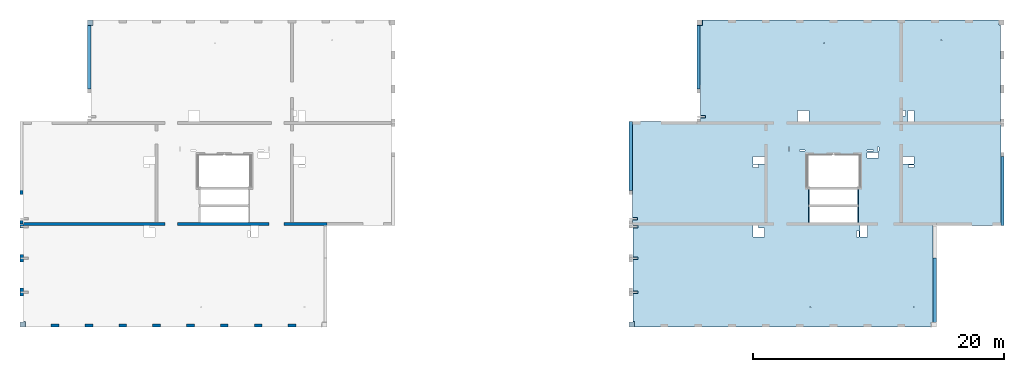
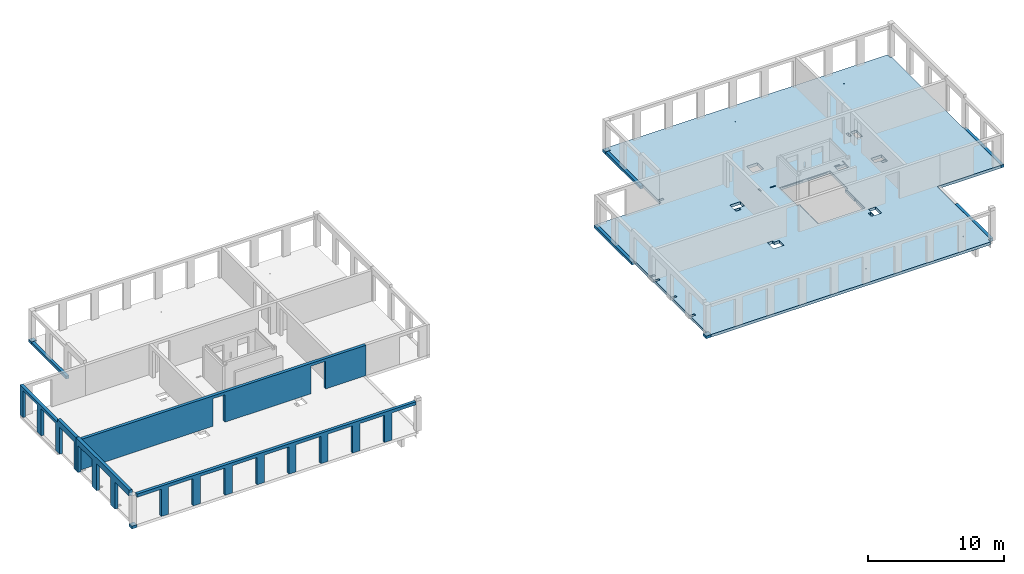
# One storey, part 2 of 12: 10 slabs, 4 walls, 51 openings.
"""IFC2X3 building model written with IfcOpenShell, lengths in millimetres."""

import ifcopenshell
import ifcopenshell.guid

model = None  # the IFC model being written
_history = None  # IfcOwnerHistory: only IFC2X3 demands one
_inside = {}  # id of a spatial element -> (the spatial element, [elements in it])
_under = {}  # id of a project, library or spatial element -> (it, [spatial elements below it])
_declared = {}  # id of a project -> (the project, [libraries it declares])
_typed = {}  # id of a type object -> (the type object, [elements of that type])
_made_of = {}  # id of a material, layer set ... -> (it, [elements and type objects made of it])


def new_model(schema):
    """Start an empty IFC model of exactly this schema.

    Asked for "IFC4X3", IfcOpenShell would pick the latest addendum, in which some entities
    have other attributes; the version numbers below select the first issue.
    IFC2X3 requires an IfcOwnerHistory on every rooted entity: one is made here for all.
    """
    global model, _history
    if schema == "IFC4X3":
        model = ifcopenshell.file(schema_version=(4, 3, 0, 0))
    else:
        model = ifcopenshell.file(schema=schema)
    _inside.clear()
    _under.clear()
    _declared.clear()
    _typed.clear()
    _made_of.clear()
    _history = None
    if model.schema == "IFC2X3":
        org = make("IfcOrganization", Name="unknown")
        user = make(
            "IfcPersonAndOrganization",
            ThePerson=make("IfcPerson", FamilyName="unknown"),
            TheOrganization=org,
        )
        app = make(
            "IfcApplication",
            ApplicationDeveloper=org,
            Version="unknown",
            ApplicationFullName="unknown",
            ApplicationIdentifier="unknown",
        )
        _history = make(
            "IfcOwnerHistory",
            OwningUser=user,
            OwningApplication=app,
            ChangeAction="ADDED",
            CreationDate=0,
        )
    return model


def make(cls, **values):
    """One entity of the class cls with the attributes given. An attribute that is None is left unset."""
    return model.create_entity(
        cls, **{name: value for name, value in values.items() if value is not None}
    )


def entity(cls, *values):
    """Any entity or typed value of the class cls, its attributes in the order of the schema. None: left unset."""
    e = model.create_entity(cls)
    for i, value in enumerate(values):
        if value is not None:
            e[i] = value
    return e


def rooted(cls, **values):
    """An entity with a GlobalId (a new one), such as an element, a storey or a relation."""
    return make(cls, GlobalId=ifcopenshell.guid.new(), OwnerHistory=_history, **values)


def si_unit(unit_type, name, prefix=None):
    """IfcSIUnit, for example si_unit("LENGTHUNIT", "METRE", prefix="MILLI")."""
    return make("IfcSIUnit", UnitType=unit_type, Prefix=prefix, Name=name)


def converted_unit(unit_type, name, factor, base, dimensions=None, offset=None):
    """IfcConversionBasedUnit, such as the inch: factor (a typed value) times the base unit."""
    return make(
        "IfcConversionBasedUnit"
        if offset is None
        else "IfcConversionBasedUnitWithOffset",
        ConversionOffset=offset,
        Dimensions=None
        if dimensions is None
        else entity("IfcDimensionalExponents", *dimensions),
        UnitType=unit_type,
        Name=name,
        ConversionFactor=make(
            "IfcMeasureWithUnit", ValueComponent=factor, UnitComponent=base
        ),
    )


def derived_unit(unit_type, elements):
    """IfcDerivedUnit: a product of units, each with its exponent."""
    return make(
        "IfcDerivedUnit",
        Elements=[
            make("IfcDerivedUnitElement", Unit=unit, Exponent=power)
            for unit, power in elements
        ],
        UnitType=unit_type,
    )


def assignment(units):
    """IfcUnitAssignment: the units of a project."""
    return None if units is None else make("IfcUnitAssignment", Units=units)


def point(xyz):
    """IfcCartesianPoint."""
    return None if xyz is None else make("IfcCartesianPoint", Coordinates=xyz)


def direction(xyz):
    """IfcDirection."""
    return None if xyz is None else make("IfcDirection", DirectionRatios=xyz)


def frame(location, z_axis=None, x_axis=None):
    """IfcAxis2Placement3D, a coordinate frame: its origin and axes. An axis left out is left unset."""
    return make(
        "IfcAxis2Placement3D",
        Location=point(location),
        Axis=direction(z_axis),
        RefDirection=direction(x_axis),
    )


def frame_2d(location, x_axis=None):
    """IfcAxis2Placement2D, a coordinate frame in the plane: its origin and x axis."""
    return make(
        "IfcAxis2Placement2D", Location=point(location), RefDirection=direction(x_axis)
    )


def origin():
    """The frame at (0, 0, 0) with its axes left unset."""
    return frame((0.0, 0.0, 0.0))


def origin_2d_with_axis():
    """The frame at (0, 0) in the plane with the x axis (1, 0) written out."""
    return frame_2d((0.0, 0.0), x_axis=(1.0, 0.0))


def place(relative_to, where):
    """IfcLocalPlacement: puts the frame where relative to a parent placement (None: the world)."""
    return make(
        "IfcLocalPlacement", PlacementRelTo=relative_to, RelativePlacement=where
    )


def context(
    kind, dimensions, precision=None, world=None, true_north=None, identifier=None
):
    """IfcGeometricRepresentationContext, for example the 3D "Model" context."""
    return make(
        "IfcGeometricRepresentationContext",
        ContextIdentifier=identifier,
        ContextType=kind,
        CoordinateSpaceDimension=dimensions,
        Precision=precision,
        WorldCoordinateSystem=world,
        TrueNorth=true_north,
    )


def subcontext(parent, identifier, kind, view, scale=None):
    """IfcGeometricRepresentationSubContext, for example "Body" below "Model"."""
    return make(
        "IfcGeometricRepresentationSubContext",
        ContextIdentifier=identifier,
        ContextType=kind,
        ParentContext=parent,
        TargetScale=scale,
        TargetView=view,
    )


def project(units=None, contexts=None):
    """IfcProject with its units and contexts."""
    return rooted(
        "IfcProject",
        Name="project",
        RepresentationContexts=contexts,
        UnitsInContext=assignment(units),
    )


def spatial(cls, under=None, at=None, **own):
    """A site, building, storey or space (cls), placed at a placement, below another one or the project."""
    s = rooted(cls, ObjectPlacement=at, **own)
    if under is not None:
        _under.setdefault(under.id(), (under, []))[1].append(s)
    return s


def polyline(points):
    """IfcPolyline through the points."""
    return make("IfcPolyline", Points=[point(p) for p in points])


def profile(cls, at=None, kind="AREA", **sizes):
    """A parametric profile (cls). Its sizes go by their IFC names, for example OverallWidth=200.0."""
    return make(cls, ProfileType=kind, Position=at, **sizes)


def rectangle(**sizes):
    """IfcRectangleProfileDef."""
    return profile("IfcRectangleProfileDef", **sizes)


def circle(**sizes):
    """IfcCircleProfileDef."""
    return profile("IfcCircleProfileDef", **sizes)


def outline(outer, holes=None, kind="AREA"):
    """IfcArbitraryClosedProfileDef: a profile drawn as a closed curve; with holes, ...WithVoids."""
    if holes is None:
        return make("IfcArbitraryClosedProfileDef", ProfileType=kind, OuterCurve=outer)
    return make(
        "IfcArbitraryProfileDefWithVoids",
        ProfileType=kind,
        OuterCurve=outer,
        InnerCurves=holes,
    )


def extrude(swept, where, along, depth):
    """IfcExtrudedAreaSolid: the profile swept, set in the frame where, extruded along a direction by depth."""
    return make(
        "IfcExtrudedAreaSolid",
        SweptArea=swept,
        Position=where,
        ExtrudedDirection=direction(along),
        Depth=depth,
    )


def shape(context_of_items, identifier, shape_type, items):
    """IfcShapeRepresentation: the items that make up one representation, for example the "Body"."""
    return make(
        "IfcShapeRepresentation",
        ContextOfItems=context_of_items,
        RepresentationIdentifier=identifier,
        RepresentationType=shape_type,
        Items=items,
    )


def material(Name=None, Category=None):
    """IfcMaterial."""
    return make("IfcMaterial", Name=Name, Category=Category)


def layer(
    of_material, thickness, ventilated=None, Name=None, Category=None, Priority=None
):
    """IfcMaterialLayer: one layer of a wall or slab, of a material (None: an air gap)."""
    return make(
        "IfcMaterialLayer",
        Material=of_material,
        LayerThickness=thickness,
        IsVentilated=ventilated,
        Name=Name,
        Category=Category,
        Priority=Priority,
    )


def layer_set(layers, Name=None):
    """IfcMaterialLayerSet."""
    return make("IfcMaterialLayerSet", MaterialLayers=layers, LayerSetName=Name)


def layer_usage(for_layer_set, set_direction, sense, offset, extent=None):
    """IfcMaterialLayerSetUsage: how a layer set lies in its element."""
    return make(
        "IfcMaterialLayerSetUsage",
        ForLayerSet=for_layer_set,
        LayerSetDirection=set_direction,
        DirectionSense=sense,
        OffsetFromReferenceLine=offset,
        ReferenceExtent=extent,
    )


def made_of(thing, what):
    """Note that an element or type object is made of a material, layer set ...; save() writes the relation."""
    if what is not None:
        _made_of.setdefault(what.id(), (what, []))[1].append(thing)
    return thing


def type_object(cls, material=None, **own):
    """A type object (cls), such as IfcWallType, which elements share."""
    return made_of(rooted(cls, **own), material)


def element(
    cls,
    number,
    at=None,
    inside=None,
    cuts=None,
    type_object=None,
    material=None,
    context=None,
    identifier="Body",
    shape_type=None,
    held_by="IfcProductDefinitionShape",
    body=None,
    shapes=None,
    **own,
):
    """One element of the class cls, such as IfcWall. Its Tag is "e" and its number.

    at: its placement. inside: the storey or other place that contains it. cuts: it is an
    opening in that element (IfcRelVoidsElement). A single representation is given by context,
    identifier, shape_type and body (its items); several are given by shapes. held_by: the class
    of the entity that holds the representations. save() writes the other relations.
    """
    e = rooted(cls, Tag="e%d" % number, ObjectPlacement=at, **own)
    if body is not None:
        shapes = [shape(context, identifier, shape_type, body)]
    if shapes is not None:
        e.Representation = make(held_by, Representations=shapes)
    if inside is not None:
        _inside.setdefault(inside.id(), (inside, []))[1].append(e)
    if cuts is not None:
        rooted(
            "IfcRelVoidsElement", RelatingBuildingElement=cuts, RelatedOpeningElement=e
        )
    if type_object is not None:
        _typed.setdefault(type_object.id(), (type_object, []))[1].append(e)
    return made_of(e, material)


def aggregate(whole, parts):
    """IfcRelAggregates: a whole, such as a stair, and the parts it consists of."""
    return rooted("IfcRelAggregates", RelatingObject=whole, RelatedObjects=parts)


def save(model, path):
    """Write the relations noted so far, then the file.

    IfcRelAggregates (storeys below a building ...), IfcRelContainedInSpatialStructure (elements
    in a storey), IfcRelDefinesByType, IfcRelAssociatesMaterial and IfcRelDeclares: one each for
    every whole, place, type object, material and project.
    """
    for whole, parts in _under.values():
        aggregate(whole, parts)
    for where, things in _inside.values():
        rooted(
            "IfcRelContainedInSpatialStructure",
            RelatedElements=things,
            RelatingStructure=where,
        )
    for kind, things in _typed.values():
        rooted("IfcRelDefinesByType", RelatedObjects=things, RelatingType=kind)
    for what, things in _made_of.values():
        rooted("IfcRelAssociatesMaterial", RelatedObjects=things, RelatingMaterial=what)
    for by, libraries in _declared.values():
        rooted("IfcRelDeclares", RelatingContext=by, RelatedDefinitions=libraries)
    model.write(path)


model = new_model("IFC2X3")

# Units and contexts
model_context = context("Model", 3, precision=0.01, world=origin(), true_north=direction((6.12303176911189e-17, 1.0)))
body_context = subcontext(model_context, "Body", "Model", "MODEL_VIEW")
ifc_project = project(units=[si_unit("LENGTHUNIT", "METRE", prefix="MILLI"), si_unit("AREAUNIT", "SQUARE_METRE"), si_unit("VOLUMEUNIT", "CUBIC_METRE"), converted_unit("PLANEANGLEUNIT", "DEGREE", entity("IfcRatioMeasure", 0.0174532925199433), si_unit("PLANEANGLEUNIT", "RADIAN"), dimensions=[0, 0, 0, 0, 0, 0, 0]), si_unit("MASSUNIT", "GRAM", prefix="KILO"), derived_unit("MASSDENSITYUNIT", [(si_unit("MASSUNIT", "GRAM", prefix="KILO"), 1), (si_unit("LENGTHUNIT", "METRE"), -3)]), si_unit("TIMEUNIT", "SECOND"), si_unit("FREQUENCYUNIT", "HERTZ"), si_unit("THERMODYNAMICTEMPERATUREUNIT", "DEGREE_CELSIUS"), derived_unit("THERMALTRANSMITTANCEUNIT", [(si_unit("MASSUNIT", "GRAM", prefix="KILO"), 1), (si_unit("THERMODYNAMICTEMPERATUREUNIT", "KELVIN"), -1), (si_unit("TIMEUNIT", "SECOND"), -3)]), derived_unit("VOLUMETRICFLOWRATEUNIT", [(si_unit("LENGTHUNIT", "METRE"), 3), (si_unit("TIMEUNIT", "SECOND"), -1)]), si_unit("ELECTRICCURRENTUNIT", "AMPERE"), si_unit("ELECTRICVOLTAGEUNIT", "VOLT"), si_unit("POWERUNIT", "WATT"), si_unit("FORCEUNIT", "NEWTON", prefix="KILO"), si_unit("ILLUMINANCEUNIT", "LUX"), si_unit("LUMINOUSFLUXUNIT", "LUMEN"), si_unit("LUMINOUSINTENSITYUNIT", "CANDELA"), derived_unit("USERDEFINED", [(si_unit("MASSUNIT", "GRAM", prefix="KILO"), -1), (si_unit("LENGTHUNIT", "METRE"), -2), (si_unit("TIMEUNIT", "SECOND"), 3), (si_unit("LUMINOUSFLUXUNIT", "LUMEN"), 1)]), derived_unit("LINEARVELOCITYUNIT", [(si_unit("LENGTHUNIT", "METRE"), 1), (si_unit("TIMEUNIT", "SECOND"), -1)]), si_unit("PRESSUREUNIT", "PASCAL"), derived_unit("USERDEFINED", [(si_unit("LENGTHUNIT", "METRE"), -2), (si_unit("MASSUNIT", "GRAM", prefix="KILO"), 1), (si_unit("TIMEUNIT", "SECOND"), -2)])], contexts=[model_context])

# Site, building, storey
site_placement = place(None, origin())
site = spatial("IfcSite", under=ifc_project, at=site_placement, Name="Default", CompositionType="ELEMENT")
building_placement = place(site_placement, origin())
building = spatial("IfcBuilding", under=site, at=building_placement, Name="niet gebruiken", CompositionType="ELEMENT")
storey_placement = place(building_placement, frame((0.0, 0.0, 24480.0)))
storey = spatial("IfcBuildingStorey", under=building, at=storey_placement, Name="08 achtste verdieping", CompositionType="ELEMENT", Elevation=24480.0)

# Slab, openings
ifc_material_1 = material(Name="NLRS_f2_beton ihwg")
ifc_layer_1 = layer(ifc_material_1, 250.0)
ifc_layer_set_1 = layer_set([ifc_layer_1], Name="Floor:NLRS_23.21_FL_beton ihwg d=250_gen")
ifc_layer_usage_1 = layer_usage(ifc_layer_set_1, "AXIS3", "POSITIVE", 0.0)
slab_1_placement = place(storey_placement, frame((75500.0, 28756.0, -340.0)))
slab_1 = element("IfcSlab", 1, at=slab_1_placement, inside=storey, material=ifc_layer_usage_1, Name="Floor:NLRS_23.21_FL_beton ihwg d=250_gen", ObjectType="Floor:NLRS_23.21_FL_beton ihwg d=250_gen", PredefinedType="FLOOR", context=body_context, shape_type="SweptSolid", body=[
    extrude(outline(polyline([(8994.99996701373, 12250.0), (-14665.0, 12250.0), (-14665.0, 11840.0), (-14805.0, 11840.0), (-14805.0, 4060.0), (-14825.0, 4060.0), (-14825.0, -4150.0), (-9425.0, -4150.0), (-9425.0, -11890.0), (-9265.00003298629, -11890.0), (-9265.00003298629, -12250.0), (14395.0, -12250.0), (14395.0, -11820.0), (14535.0, -11820.0), (14535.0, -4060.0), (14555.0, -4060.0), (14555.0, -1350.0), (14825.0, -1350.0), (14825.0, 4150.0), (9155.0, 4150.0), (9155.0, 7060.0), (9175.0, 7060.0), (9175.0, 11820.0), (8994.99996701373, 11820.0), (8994.99996701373, 12250.0)])), frame((14825.0, 12250.0, 250.0), z_axis=(0.0, 0.0, -1.0), x_axis=(-1.0, 0.0, 0.0)), (0.0, 0.0, 1.0), 249.999999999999),
])
opening_1_placement = place(storey_placement, frame((75500.0, 28756.0, -340.0)))
element("IfcOpeningElement", 2, at=opening_1_placement, cuts=slab_1, ObjectType="Opening", context=body_context, shape_type="SweptSolid", body=[
    extrude(circle(Radius=37.5, at=frame_2d((-7875.0, -10650.0), x_axis=(1.0, 0.0))), frame((14825.0, 12250.0, 250.0), z_axis=(0.0, 0.0, -1.0), x_axis=(-1.0, 0.0, 0.0)), (0.0, 0.0, 1.0), 249.999999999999),
])
opening_2_placement = place(storey_placement, frame((75500.0, 28756.0, -340.0)))
element("IfcOpeningElement", 3, at=opening_2_placement, cuts=slab_1, ObjectType="Opening", context=body_context, shape_type="SweptSolid", body=[
    extrude(circle(Radius=37.5, at=frame_2d((-10075.0, 10650.0), x_axis=(1.0, 0.0))), frame((14825.0, 12250.0, 250.0), z_axis=(0.0, 0.0, -1.0), x_axis=(-1.0, 0.0, 0.0)), (0.0, 0.0, 1.0), 249.999999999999),
])
opening_3_placement = place(storey_placement, frame((75500.0, 28756.0, -340.0)))
element("IfcOpeningElement", 4, at=opening_3_placement, cuts=slab_1, ObjectType="Opening", context=body_context, shape_type="SweptSolid", body=[
    extrude(circle(Radius=37.5, at=frame_2d((-725.0, 10400.0), x_axis=(1.0, 0.0))), frame((14825.0, 12250.0, 250.0), z_axis=(0.0, 0.0, -1.0), x_axis=(-1.0, 0.0, 0.0)), (0.0, 0.0, 1.0), 249.999999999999),
])
opening_4_placement = place(storey_placement, frame((75500.0, 28756.0, -340.0)))
element("IfcOpeningElement", 5, at=opening_4_placement, cuts=slab_1, ObjectType="Opening", context=body_context, shape_type="SweptSolid", body=[
    extrude(circle(Radius=37.5, at=frame_2d((375.0, -10650.0), x_axis=(1.0, 0.0))), frame((14825.0, 12250.0, 250.0), z_axis=(0.0, 0.0, -1.0), x_axis=(-1.0, 0.0, 0.0)), (0.0, 0.0, 1.0), 249.999999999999),
])
opening_5_placement = place(slab_1_placement, origin())
element("IfcOpeningElement", 6, at=opening_5_placement, cuts=slab_1, ObjectType="Opening", context=body_context, shape_type="SweptSolid", body=[
    extrude(rectangle(XDim=109.999999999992, YDim=1220.0, at=origin_2d_with_axis()), frame((14344.9999671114, 10380.0, 210.0)), (0.0, 0.0, 1.0), 39.9999999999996),
])
opening_6_placement = place(slab_1_placement, origin())
element("IfcOpeningElement", 7, at=opening_6_placement, cuts=slab_1, ObjectType="Opening", context=body_context, shape_type="SweptSolid", body=[
    extrude(rectangle(XDim=109.999999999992, YDim=1220.0, at=origin_2d_with_axis()), frame((18255.0, 10380.0, 210.0)), (0.0, 0.0, 1.0), 39.9999999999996),
])
opening_7_placement = place(slab_1_placement, origin())
element("IfcOpeningElement", 8, at=opening_7_placement, cuts=slab_1, ObjectType="Opening", context=body_context, shape_type="SweptSolid", body=[
    extrude(rectangle(XDim=109.999999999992, YDim=1220.0, at=origin_2d_with_axis()), frame((18255.0, 8960.0, 210.0)), (0.0, 0.0, 1.0), 39.9999999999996),
])
opening_8_placement = place(slab_1_placement, origin())
element("IfcOpeningElement", 9, at=opening_8_placement, cuts=slab_1, ObjectType="Opening", context=body_context, shape_type="SweptSolid", body=[
    extrude(rectangle(XDim=109.999999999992, YDim=1220.0, at=origin_2d_with_axis()), frame((14344.9997832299, 8960.0, 210.0)), (0.0, 0.0, 1.0), 39.9999999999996),
])
opening_9_placement = place(slab_1_placement, origin())
element("IfcOpeningElement", 10, at=opening_9_placement, cuts=slab_1, ObjectType="Opening", context=body_context, shape_type="SweptSolid", body=[
    extrude(rectangle(XDim=200.000000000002, YDim=400.000000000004, at=origin_2d_with_axis()), frame((490.0, 2800.0, 220.0), z_axis=(0.0, 0.0, 1.0), x_axis=(0.0, -1.0, 0.0)), (0.0, 0.0, 1.0), 30.0000000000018),
])
opening_10_placement = place(slab_1_placement, origin())
element("IfcOpeningElement", 11, at=opening_10_placement, cuts=slab_1, ObjectType="Opening", context=body_context, shape_type="SweptSolid", body=[
    extrude(rectangle(XDim=200.000000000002, YDim=400.000000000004, at=origin_2d_with_axis()), frame((490.0, 5500.0, 220.0), z_axis=(0.0, 0.0, 1.0), x_axis=(0.0, -1.0, 0.0)), (0.0, 0.0, 1.0), 30.0000000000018),
])
opening_11_placement = place(slab_1_placement, origin())
element("IfcOpeningElement", 12, at=opening_11_placement, cuts=slab_1, ObjectType="Opening", context=body_context, shape_type="SweptSolid", body=[
    extrude(rectangle(XDim=200.000000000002, YDim=400.000000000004, at=origin_2d_with_axis()), frame((490.0, 8000.0, 220.0), z_axis=(0.0, 0.0, 1.0), x_axis=(0.0, -1.0, 0.0)), (0.0, 0.0, 1.0), 30.0000000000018),
])
opening_12_placement = place(slab_1_placement, origin())
element("IfcOpeningElement", 13, at=opening_12_placement, cuts=slab_1, ObjectType="Opening", context=body_context, shape_type="SweptSolid", body=[
    extrude(rectangle(XDim=400.000000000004, YDim=200.000000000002, at=origin_2d_with_axis()), frame((470.0, 8630.0, 220.0)), (0.0, 0.0, 1.0), 30.0000000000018),
])
opening_13_placement = place(slab_1_placement, origin())
element("IfcOpeningElement", 14, at=opening_13_placement, cuts=slab_1, ObjectType="Opening", context=body_context, shape_type="SweptSolid", body=[
    extrude(rectangle(XDim=399.999999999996, YDim=199.999999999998, at=origin_2d_with_axis()), frame((5870.0, 16765.0, 220.0)), (0.0, 0.0, 1.0), 30.0000000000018),
])
opening_14_placement = place(slab_1_placement, origin())
element("IfcOpeningElement", 15, at=opening_14_placement, cuts=slab_1, ObjectType="Opening", context=body_context, shape_type="SweptSolid", body=[
    extrude(rectangle(XDim=900.000000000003, YDim=700.000000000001, at=origin_2d_with_axis()), frame((10325.0, 7550.0, 0.0), z_axis=(0.0, 0.0, 1.0), x_axis=(-1.0, 0.0, 0.0)), (0.0, 0.0, 1.0), 249.999999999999),
])
opening_15_placement = place(slab_1_placement, origin())
element("IfcOpeningElement", 16, at=opening_15_placement, cuts=slab_1, ObjectType="Opening", context=body_context, shape_type="SweptSolid", body=[
    extrude(rectangle(XDim=200.000000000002, YDim=450.000000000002, at=origin_2d_with_axis()), frame((10100.0, 8000.0, 0.0), z_axis=(0.0, 0.0, 1.0), x_axis=(0.0, -1.0, 0.0)), (0.0, 0.0, 1.0), 249.999999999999),
])
opening_16_placement = place(slab_1_placement, origin())
element("IfcOpeningElement", 17, at=opening_16_placement, cuts=slab_1, ObjectType="Opening", context=body_context, shape_type="SweptSolid", body=[
    extrude(rectangle(XDim=450.000000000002, YDim=900.000000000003, at=origin_2d_with_axis()), frame((19430.0, 13720.0, 0.0), z_axis=(0.0, 0.0, 1.0), x_axis=(0.0, -1.0, 0.0)), (0.0, 0.0, 1.0), 249.999999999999),
])
opening_17_placement = place(slab_1_placement, origin())
element("IfcOpeningElement", 18, at=opening_17_placement, cuts=slab_1, ObjectType="Opening", context=body_context, shape_type="SweptSolid", body=[
    extrude(rectangle(XDim=900.000000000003, YDim=900.000000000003, at=origin_2d_with_axis()), frame((13885.0, 16850.0, 0.0), z_axis=(0.0, 0.0, 1.0), x_axis=(-1.0, 0.0, 0.0)), (0.0, 0.0, 1.0), 249.999999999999),
])
opening_18_placement = place(slab_1_placement, origin())
element("IfcOpeningElement", 19, at=opening_18_placement, cuts=slab_1, ObjectType="Opening", context=body_context, shape_type="SweptSolid", body=[
    extrude(rectangle(XDim=900.000000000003, YDim=600.000000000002, at=origin_2d_with_axis()), frame((10325.0, 13330.0, 0.0), z_axis=(0.0, 0.0, 1.0), x_axis=(-1.0, 0.0, 0.0)), (0.0, 0.0, 1.0), 249.999999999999),
])
opening_19_placement = place(slab_1_placement, origin())
element("IfcOpeningElement", 20, at=opening_19_placement, cuts=slab_1, ObjectType="Opening", context=body_context, shape_type="SweptSolid", body=[
    extrude(rectangle(XDim=900.000000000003, YDim=500.000000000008, at=origin_2d_with_axis()), frame((22475.0, 16850.0, 0.0), z_axis=(0.0, 0.0, 1.0), x_axis=(0.0, 1.0, 0.0)), (0.0, 0.0, 1.0), 249.999999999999),
])
opening_20_placement = place(slab_1_placement, origin())
element("IfcOpeningElement", 21, at=opening_20_placement, cuts=slab_1, ObjectType="Opening", context=body_context, shape_type="SweptSolid", body=[
    extrude(rectangle(XDim=899.999999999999, YDim=600.000000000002, at=origin_2d_with_axis()), frame((18729.9818996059, 7650.0, 0.0), z_axis=(0.0, 0.0, 1.0), x_axis=(0.0, 1.0, 0.0)), (0.0, 0.0, 1.0), 249.999999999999),
])
opening_21_placement = place(slab_1_placement, origin())
element("IfcOpeningElement", 22, at=opening_21_placement, cuts=slab_1, ObjectType="Opening", context=body_context, shape_type="SweptSolid", body=[
    extrude(rectangle(XDim=1760.0, YDim=23.0000000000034, at=origin_2d_with_axis()), frame((17354.9998491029, 13751.5, 180.0)), (0.0, 0.0, 1.0), 39.9999999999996),
])
opening_22_placement = place(slab_1_placement, origin())
element("IfcOpeningElement", 23, at=opening_22_placement, cuts=slab_1, ObjectType="Opening", context=body_context, shape_type="SweptSolid", body=[
    extrude(rectangle(XDim=1760.00000000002, YDim=23.0000000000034, at=origin_2d_with_axis()), frame((15244.9998491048, 13751.5, 180.0)), (0.0, 0.0, 1.0), 39.9999999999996),
])
opening_23_placement = place(slab_1_placement, origin())
element("IfcOpeningElement", 24, at=opening_23_placement, cuts=slab_1, ObjectType="Opening", context=body_context, shape_type="SweptSolid", body=[
    extrude(rectangle(XDim=100.000000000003, YDim=489.999999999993, at=origin_2d_with_axis()), frame((19225.0, 14090.0, 0.0), z_axis=(0.0, 0.0, 1.0), x_axis=(0.0, -1.0, 0.0)), (0.0, 0.0, 1.0), 249.999999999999),
])
opening_24_placement = place(slab_1_placement, origin())
element("IfcOpeningElement", 25, at=opening_24_placement, cuts=slab_1, ObjectType="Opening", context=body_context, shape_type="SweptSolid", body=[
    extrude(rectangle(XDim=99.9999999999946, YDim=340.000000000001, at=origin_2d_with_axis()), frame((19865.0, 14210.0, 0.0), z_axis=(0.0, 0.0, 1.0), x_axis=(-1.0, 0.0, 0.0)), (0.0, 0.0, 1.0), 249.999999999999),
])
opening_25_placement = place(slab_1_placement, origin())
element("IfcOpeningElement", 26, at=opening_25_placement, cuts=slab_1, ObjectType="Opening", context=body_context, shape_type="SweptSolid", body=[
    extrude(rectangle(XDim=100.000000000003, YDim=440.000000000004, at=origin_2d_with_axis()), frame((13805.0, 14090.0, 0.0), z_axis=(0.0, 0.0, 1.0), x_axis=(0.0, -1.0, 0.0)), (0.0, 0.0, 1.0), 249.999999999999),
])
opening_26_placement = place(slab_1_placement, origin())
element("IfcOpeningElement", 27, at=opening_26_placement, cuts=slab_1, ObjectType="Opening", context=body_context, shape_type="SweptSolid", body=[
    extrude(rectangle(XDim=99.9999999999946, YDim=340.000000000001, at=origin_2d_with_axis()), frame((12755.0, 14210.0, 0.0), z_axis=(0.0, 0.0, 1.0), x_axis=(-1.0, 0.0, 0.0)), (0.0, 0.0, 1.0), 249.999999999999),
])
opening_27_placement = place(slab_1_placement, origin())
element("IfcOpeningElement", 28, at=opening_27_placement, cuts=slab_1, ObjectType="Opening", context=body_context, shape_type="SweptSolid", body=[
    extrude(rectangle(XDim=220.000000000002, YDim=450.000000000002, at=origin_2d_with_axis()), frame((21935.0, 17075.0, 0.0), z_axis=(0.0, 0.0, 1.0), x_axis=(-1.0, 0.0, 0.0)), (0.0, 0.0, 1.0), 249.999999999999),
])
opening_28_placement = place(slab_1_placement, origin())
element("IfcOpeningElement", 29, at=opening_28_placement, cuts=slab_1, ObjectType="Opening", context=body_context, shape_type="SweptSolid", body=[
    extrude(rectangle(XDim=230.0, YDim=450.000000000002, at=origin_2d_with_axis()), frame((10100.0000865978, 12845.0002270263, 0.0), z_axis=(0.0, 0.0, 1.0), x_axis=(0.0, -1.0, 0.0)), (0.0, 0.0, 1.0), 249.999999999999),
])
opening_29_placement = place(slab_1_placement, origin())
element("IfcOpeningElement", 30, at=opening_29_placement, cuts=slab_1, ObjectType="Opening", context=body_context, shape_type="SweptSolid", body=[
    extrude(rectangle(XDim=220.000000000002, YDim=450.000000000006, at=origin_2d_with_axis()), frame((18240.0, 7425.0, 0.0)), (0.0, 0.0, 1.0), 249.999999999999),
])
opening_30_placement = place(slab_1_placement, origin())
element("IfcOpeningElement", 31, at=opening_30_placement, cuts=slab_1, ObjectType="Opening", context=body_context, shape_type="SweptSolid", body=[
    extrude(rectangle(XDim=900.000000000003, YDim=600.000000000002, at=origin_2d_with_axis()), frame((22275.0, 13330.0, 0.0), z_axis=(0.0, 0.0, 1.0), x_axis=(-1.0, 0.0, 0.0)), (0.0, 0.0, 1.0), 249.999999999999),
])
opening_31_placement = place(slab_1_placement, origin())
element("IfcOpeningElement", 32, at=opening_31_placement, cuts=slab_1, ObjectType="Opening", context=body_context, shape_type="SweptSolid", body=[
    extrude(rectangle(XDim=220.000000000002, YDim=450.000000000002, at=origin_2d_with_axis()), frame((22500.0, 12840.0, 0.0), z_axis=(0.0, 0.0, 1.0), x_axis=(0.0, -1.0, 0.0)), (0.0, 0.0, 1.0), 249.999999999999),
])
opening_32_placement = place(slab_1_placement, frame((16300.0, 10378.75, 250.0)))
element("IfcOpeningElement", 33, at=opening_32_placement, cuts=slab_1, Name="Floor:NLRS_23.21_FL_beton ihwg d=250_gen:2", ObjectType="Opening", context=body_context, shape_type="SweptSolid", body=[
    extrude(outline(polyline([(-3361.25000000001, -2135.00001644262), (-751.250000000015, -2135.00001644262), (-751.250000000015, -1899.99998355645), (608.750000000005, -1899.99998355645), (608.750000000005, -2000.00001644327), (808.750000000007, -2000.00001644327), (808.750000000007, -1899.99998355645), (2028.75, -1899.99998355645), (2028.75, 1900.00001644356), (808.749999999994, 1900.00001644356), (808.749999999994, 1999.99998355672), (608.749999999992, 1999.99998355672), (608.749999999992, 1900.00001644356), (-751.250000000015, 1900.00001644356), (-751.250000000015, 2134.99998355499), (-3361.25000000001, 2134.99998355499), (-3361.25000000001, -2135.00001644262)])), frame((0.0, 0.0, 0.0), z_axis=(0.0, 0.0, -1.0), x_axis=(0.0, -1.0, 0.0)), (0.0, 0.0, 1.0), 249.999999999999),
])

# Slabs
ifc_layer_usage_2 = layer_usage(ifc_layer_set_1, "AXIS3", "POSITIVE", 0.0)
slab_2_placement = place(storey_placement, origin())
element("IfcSlab", 34, at=slab_2_placement, inside=storey, material=ifc_layer_usage_2, Name="Floor:NLRS_23.21_FL_beton ihwg d=250_gen", ObjectType="Floor:NLRS_23.21_FL_beton ihwg d=250_gen", PredefinedType="FLOOR", context=body_context, shape_type="SweptSolid", body=[
    extrude(rectangle(XDim=5140.00000000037, YDim=250.000065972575, at=origin_2d_with_axis()), frame((99875.0, 31686.0, -90.0), z_axis=(0.0, 0.0, -1.0), x_axis=(0.0, 1.0, 0.0)), (0.0, 0.0, 1.0), 249.999999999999),
])
ifc_layer_usage_3 = layer_usage(ifc_layer_set_1, "AXIS3", "POSITIVE", 0.0)
slab_3_placement = place(storey_placement, origin())
element("IfcSlab", 35, at=slab_3_placement, inside=storey, material=ifc_layer_usage_3, Name="Floor:NLRS_23.21_FL_beton ihwg d=250_gen", ObjectType="Floor:NLRS_23.21_FL_beton ihwg d=250_gen", PredefinedType="FLOOR", context=body_context, shape_type="SweptSolid", body=[
    extrude(rectangle(XDim=5089.99999999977, YDim=249.999999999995, at=frame_2d((-4.32009983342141e-12, -8.66151594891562e-12), x_axis=(1.0, 0.0))), frame((81025.0, 50301.0, -90.0), z_axis=(0.0, 0.0, -1.0), x_axis=(0.0, 1.0, 0.0)), (0.0, 0.0, 1.0), 249.999999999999),
])
ifc_layer_usage_4 = layer_usage(ifc_layer_set_1, "AXIS3", "POSITIVE", 0.0)
slab_4_placement = place(storey_placement, origin())
element("IfcSlab", 36, at=slab_4_placement, inside=storey, material=ifc_layer_usage_4, Name="Floor:NLRS_23.21_FL_beton ihwg d=250_gen", ObjectType="Floor:NLRS_23.21_FL_beton ihwg d=250_gen", PredefinedType="FLOOR", context=body_context, shape_type="SweptSolid", body=[
    extrude(rectangle(XDim=5499.99999999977, YDim=250.000000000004, at=frame_2d((0.0, 4.33431068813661e-12), x_axis=(1.0, 0.0))), frame((75625.0, 42406.0, -90.0), z_axis=(0.0, 0.0, -1.0), x_axis=(0.0, 1.0, 0.0)), (0.0, 0.0, 1.0), 249.999999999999),
])
ifc_layer_usage_5 = layer_usage(ifc_layer_set_1, "AXIS3", "POSITIVE", 0.0)
slab_5_placement = place(storey_placement, origin())
element("IfcSlab", 37, at=slab_5_placement, inside=storey, material=ifc_layer_usage_5, Name="Floor:NLRS_23.21_FL_beton ihwg d=250_gen", ObjectType="Floor:NLRS_23.21_FL_beton ihwg d=250_gen", PredefinedType="FLOOR", context=body_context, shape_type="SweptSolid", body=[
    extrude(rectangle(XDim=5089.99999999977, YDim=249.999999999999, at=frame_2d((-4.32009983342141e-12, -2.16715534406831e-12), x_axis=(1.0, 0.0))), frame((32425.0, 50301.0, -90.0), z_axis=(0.0, 0.0, -1.0), x_axis=(0.0, 1.0, 0.0)), (0.0, 0.0, 1.0), 249.999999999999),
])
ifc_layer_usage_6 = layer_usage(ifc_layer_set_1, "AXIS3", "POSITIVE", 0.0)
slab_6_placement = place(storey_placement, origin())
element("IfcSlab", 38, at=slab_6_placement, inside=storey, material=ifc_layer_usage_6, Name="Floor:NLRS_23.21_FL_beton ihwg d=250_gen", ObjectType="Floor:NLRS_23.21_FL_beton ihwg d=250_gen", PredefinedType="FLOOR", context=body_context, shape_type="SweptSolid", body=[
    extrude(rectangle(XDim=5500.00000000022, YDim=249.999999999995, at=frame_2d((0.0, -8.66151594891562e-12), x_axis=(1.0, 0.0))), frame((105275.0, 39606.0, -90.0), z_axis=(0.0, 0.0, -1.0), x_axis=(0.0, 1.0, 0.0)), (0.0, 0.0, 1.0), 249.999999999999),
])
ifc_layer_usage_7 = layer_usage(ifc_layer_set_1, "AXIS3", "POSITIVE", 0.0)
slab_7_placement = place(storey_placement, origin())
element("IfcSlab", 39, at=slab_7_placement, inside=storey, material=ifc_layer_usage_7, Name="Floor:NLRS_23.21_FL_beton ihwg d=250_gen", ObjectType="Floor:NLRS_23.21_FL_beton ihwg d=250_gen", PredefinedType="FLOOR", context=body_context, shape_type="SweptSolid", body=[
    extrude(outline(polyline([(-280.0, -240.0), (130.0, -240.0), (130.0, 50.0), (150.0, 50.0), (150.0, 190.0), (-280.0, 190.0), (-280.0, -240.0)])), frame((75740.0, 29036.0, -90.0), z_axis=(0.0, 0.0, -1.0), x_axis=(0.0, 1.0, 0.0)), (0.0, 0.0, 1.0), 249.999999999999),
])
ifc_layer_usage_8 = layer_usage(ifc_layer_set_1, "AXIS3", "POSITIVE", 0.0)
slab_8_placement = place(storey_placement, origin())
element("IfcSlab", 40, at=slab_8_placement, inside=storey, material=ifc_layer_usage_8, Name="Floor:NLRS_23.21_FL_beton ihwg d=250_gen", ObjectType="Floor:NLRS_23.21_FL_beton ihwg d=250_gen", PredefinedType="FLOOR", context=body_context, shape_type="SweptSolid", body=[
    extrude(outline(polyline([(-280.0, -240.0), (130.0, -240.0), (130.0, 50.0), (150.0, 50.0), (150.0, 190.0), (-280.0, 190.0), (-280.0, -240.0)])), frame((27140.0, 29036.0, -90.0), z_axis=(0.0, 0.0, -1.0), x_axis=(0.0, 1.0, 0.0)), (0.0, 0.0, 1.0), 249.999999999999),
])
ifc_layer_usage_9 = layer_usage(ifc_layer_set_1, "AXIS3", "POSITIVE", 0.0)
slab_9_placement = place(storey_placement, origin())
element("IfcSlab", 41, at=slab_9_placement, inside=storey, material=ifc_layer_usage_9, Name="Floor:NLRS_23.21_FL_beton ihwg d=250_gen", ObjectType="Floor:NLRS_23.21_FL_beton ihwg d=250_gen", PredefinedType="FLOOR", context=body_context, shape_type="SweptSolid", body=[
    extrude(rectangle(XDim=430.000000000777, YDim=430.000032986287, at=frame_2d((4.33431068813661e-12, 0.0), x_axis=(1.0, 0.0))), frame((81115.0, 53041.0, -90.0), z_axis=(0.0, 0.0, -1.0), x_axis=(0.0, 1.0, 0.0)), (0.0, 0.0, 1.0), 249.999999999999),
])
ifc_layer_usage_10 = layer_usage(ifc_layer_set_1, "AXIS3", "POSITIVE", 0.0)
slab_10_placement = place(storey_placement, origin())
element("IfcSlab", 42, at=slab_10_placement, inside=storey, material=ifc_layer_usage_10, Name="Floor:NLRS_23.21_FL_beton ihwg d=250_gen", ObjectType="Floor:NLRS_23.21_FL_beton ihwg d=250_gen", PredefinedType="FLOOR", context=body_context, shape_type="SweptSolid", body=[
    extrude(rectangle(XDim=430.000000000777, YDim=430.000032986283, at=frame_2d((-4.33431068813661e-12, 2.1600499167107e-12), x_axis=(1.0, 0.0))), frame((32515.0, 53041.0, -90.0), z_axis=(0.0, 0.0, -1.0), x_axis=(0.0, 1.0, 0.0)), (0.0, 0.0, 1.0), 249.999999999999),
])

# Wall, openings
ifc_layer_2 = layer(ifc_material_1, 250.0)
ifc_layer_set_2 = layer_set([ifc_layer_2], Name="Basic Wall:NLRS_22.21_WA_beton ihwg d=250_gen")
ifc_layer_usage_11 = layer_usage(ifc_layer_set_2, "AXIS2", "NEGATIVE", 125.0)
wall_type_1 = type_object("IfcWallType", Name="Basic Wall:NLRS_22.21_WA_beton ihwg d=250_gen", PredefinedType="STANDARD", material=ifc_layer_set_2)
wall_1_placement = place(storey_placement, frame((27170.0, 36981.0, -90.0)))
wall_1 = element("IfcWallStandardCase", 43, at=wall_1_placement, inside=storey, type_object=wall_type_1, material=ifc_layer_usage_11, Name="Basic Wall:NLRS_22.21_WA_beton ihwg d=250_gen", ObjectType="Basic Wall:NLRS_22.21_WA_beton ihwg d=250_gen", context=body_context, shape_type="SweptSolid", body=[
    extrude(rectangle(XDim=24230.0, YDim=250.000000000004, at=frame_2d((12115.0, 0.0), x_axis=(-1.0, 0.0))), origin(), (0.0, 0.0, 1.0), 2719.99999999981),
])
opening_33_placement = place(wall_1_placement, origin())
element("IfcOpeningElement", 44, at=opening_33_placement, cuts=wall_1, Name="Basic Wall:NLRS_22.21_WA_beton ihwg d=250_gen", ObjectType="Opening", context=body_context, shape_type="SweptSolid", body=[
    extrude(rectangle(XDim=2470.0, YDim=1225.0, at=frame_2d((0.0, 0.0), x_axis=(0.0, 1.0))), frame((20192.5000000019, -1399.0, 1235.0), z_axis=(0.0, 1.0, 0.0), x_axis=(-1.0, 0.0, 0.0)), (0.0, 0.0, 1.0), 3048.0),
])
opening_34_placement = place(wall_1_placement, origin())
element("IfcOpeningElement", 45, at=opening_34_placement, cuts=wall_1, Name="Basic Wall:NLRS_22.21_WA_beton ihwg d=250_gen", ObjectType="Opening", context=body_context, shape_type="SweptSolid", body=[
    extrude(rectangle(XDim=2470.0, YDim=1006.0, at=frame_2d((2.1600499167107e-12, 0.0), x_axis=(0.0, 1.0))), frame((11782.0, -1399.0, 1235.0), z_axis=(0.0, 1.0, 0.0), x_axis=(-1.0, 0.0, 0.0)), (0.0, 0.0, 1.0), 3048.0),
])
opening_35_placement = place(wall_1_placement, origin())
element("IfcOpeningElement", 46, at=opening_35_placement, cuts=wall_1, Name="Basic Wall:NLRS_22.21_WA_beton ihwg d=250_gen", ObjectType="Recess", context=body_context, shape_type="SweptSolid", body=[
    extrude(rectangle(XDim=55000.0, YDim=20.0000000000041, at=frame_2d((0.0, -2.16626716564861e-12), x_axis=(1.0, 0.0))), frame((10.0, -140.0, 15620.0), z_axis=(0.0, 1.0, 0.0), x_axis=(0.0, 0.0, -1.0)), (0.0, 0.0, 1.0), 124.999999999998),
])

ifc_material_2 = material(Name="NLRS_f2_beton prefab")
ifc_layer_3 = layer(ifc_material_2, 250.0)
ifc_layer_set_3 = layer_set([ifc_layer_3], Name="Basic Wall:NLRS_21.21_WA_beton prefab d=250_gen")
ifc_layer_usage_12 = layer_usage(ifc_layer_set_3, "AXIS2", "NEGATIVE", 125.0)
wall_type_2 = type_object("IfcWallType", Name="Basic Wall:NLRS_21.21_WA_beton prefab d=250_gen", PredefinedType="STANDARD", material=ifc_layer_set_3)
wall_2_placement = place(storey_placement, frame((27025.0, 45156.0, -70.0), z_axis=(0.0, 0.0, 1.0), x_axis=(0.0, -1.0, 0.0)))
wall_2 = element("IfcWallStandardCase", 47, at=wall_2_placement, inside=storey, type_object=wall_type_2, material=ifc_layer_usage_12, Name="Basic Wall:NLRS_21.21_WA_beton prefab d=250_gen", ObjectType="Basic Wall:NLRS_21.21_WA_beton prefab d=250_gen", context=body_context, shape_type="SweptSolid", body=[
    extrude(rectangle(XDim=8189.99999999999, YDim=250.000000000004, at=frame_2d((4095.0, 0.0), x_axis=(-1.0, 0.0))), origin(), (0.0, 0.0, 1.0), 2949.99999999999),
])
opening_36_placement = place(wall_2_placement, origin())
element("IfcOpeningElement", 48, at=opening_36_placement, cuts=wall_2, Name="Basic Wall:NLRS_21.21_WA_beton prefab d=250_gen", ObjectType="Opening", context=body_context, shape_type="SweptSolid", body=[
    extrude(rectangle(XDim=2420.0, YDim=2080.0, at=frame_2d((0.0, 2.1600499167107e-12), x_axis=(0.0, 1.0))), frame((1450.0, -1399.0, 1210.0), z_axis=(0.0, 1.0, 0.0), x_axis=(-1.0, 0.0, 0.0)), (0.0, 0.0, 1.0), 3048.0),
])
opening_37_placement = place(wall_2_placement, origin())
element("IfcOpeningElement", 49, at=opening_37_placement, cuts=wall_2, Name="Basic Wall:NLRS_21.21_WA_beton prefab d=250_gen", ObjectType="Opening", context=body_context, shape_type="SweptSolid", body=[
    extrude(rectangle(XDim=2420.0, YDim=2080.0, at=frame_2d((0.0, -2.1600499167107e-12), x_axis=(0.0, 1.0))), frame((4150.0, -1399.0, 1210.0), z_axis=(0.0, 1.0, 0.0), x_axis=(-1.0, 0.0, 0.0)), (0.0, 0.0, 1.0), 3048.0),
])
opening_38_placement = place(wall_2_placement, origin())
element("IfcOpeningElement", 50, at=opening_38_placement, cuts=wall_2, Name="Basic Wall:NLRS_21.21_WA_beton prefab d=250_gen", ObjectType="Opening", context=body_context, shape_type="SweptSolid", body=[
    extrude(rectangle(XDim=2420.0, YDim=2080.0, at=frame_2d((0.0, 2.1600499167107e-12), x_axis=(0.0, 1.0))), frame((6850.0, -1399.0, 1210.0), z_axis=(0.0, 1.0, 0.0), x_axis=(-1.0, 0.0, 0.0)), (0.0, 0.0, 1.0), 3048.0),
])
opening_39_placement = place(wall_2_placement, origin())
element("IfcOpeningElement", 51, at=opening_39_placement, cuts=wall_2, Name="Basic Wall:NLRS_21.21_WA_beton prefab d=250_gen", ObjectType="Opening", context=body_context, shape_type="SweptSolid", body=[
    extrude(rectangle(XDim=250.000000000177, YDim=5499.99999999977, at=frame_2d((0.0, -4.33431068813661e-12), x_axis=(0.0, 1.0))), frame((2750.0, 125.0, 2825.0), z_axis=(0.0, -1.0, 0.0), x_axis=(-1.0, 0.0, 0.0)), (0.0, 0.0, 1.0), 250.0),
])

ifc_layer_4 = layer(ifc_material_1, 250.0)
ifc_layer_set_4 = layer_set([ifc_layer_4], Name="Basic Wall:NLRS_21.21_WA_beton ihwg d=250_gen")
ifc_layer_usage_13 = layer_usage(ifc_layer_set_4, "AXIS2", "NEGATIVE", 125.0)
wall_type_3 = type_object("IfcWallType", Name="Basic Wall:NLRS_21.21_WA_beton ihwg d=250_gen", PredefinedType="STANDARD", material=ifc_layer_set_4)
wall_3_placement = place(storey_placement, frame((27330.0, 28881.0, -90.0)))
wall_3 = element("IfcWallStandardCase", 52, at=wall_3_placement, inside=storey, type_object=wall_type_3, material=ifc_layer_usage_13, Name="Basic Wall:NLRS_21.21_WA_beton ihwg d=250_gen", ObjectType="Basic Wall:NLRS_21.21_WA_beton ihwg d=250_gen", context=body_context, shape_type="SweptSolid", body=[
    extrude(rectangle(XDim=23640.0000000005, YDim=250.000000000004, at=frame_2d((11820.0000000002, -8.66862137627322e-13), x_axis=(-1.0, 0.0))), origin(), (0.0, 0.0, 1.0), 2720.00000000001),
])
opening_40_placement = place(wall_3_placement, origin())
element("IfcOpeningElement", 53, at=opening_40_placement, cuts=wall_3, Name="Basic Wall:NLRS_21.21_WA_beton ihwg d=250_gen", ObjectType="Opening", context=body_context, shape_type="SweptSolid", body=[
    extrude(rectangle(XDim=2440.0, YDim=2080.0, at=frame_2d((0.0, -2.1600499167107e-12), x_axis=(0.0, 1.0))), frame((22620.0, -1399.0, 1220.0), z_axis=(0.0, 1.0, 0.0), x_axis=(-1.0, 0.0, 0.0)), (0.0, 0.0, 1.0), 3048.0),
])
opening_41_placement = place(wall_3_placement, origin())
element("IfcOpeningElement", 54, at=opening_41_placement, cuts=wall_3, Name="Basic Wall:NLRS_21.21_WA_beton ihwg d=250_gen", ObjectType="Opening", context=body_context, shape_type="SweptSolid", body=[
    extrude(rectangle(XDim=2440.0, YDim=2080.0, at=frame_2d((0.0, 0.0), x_axis=(0.0, 1.0))), frame((19920.0, -1399.0, 1220.0), z_axis=(0.0, 1.0, 0.0), x_axis=(-1.0, 0.0, 0.0)), (0.0, 0.0, 1.0), 3048.0),
])
opening_42_placement = place(wall_3_placement, origin())
element("IfcOpeningElement", 55, at=opening_42_placement, cuts=wall_3, Name="Basic Wall:NLRS_21.21_WA_beton ihwg d=250_gen", ObjectType="Opening", context=body_context, shape_type="SweptSolid", body=[
    extrude(rectangle(XDim=2440.0, YDim=2080.0, at=frame_2d((0.0, -2.1600499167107e-12), x_axis=(0.0, 1.0))), frame((17220.0, -1399.0, 1220.0), z_axis=(0.0, 1.0, 0.0), x_axis=(-1.0, 0.0, 0.0)), (0.0, 0.0, 1.0), 3048.0),
])
opening_43_placement = place(wall_3_placement, origin())
element("IfcOpeningElement", 56, at=opening_43_placement, cuts=wall_3, Name="Basic Wall:NLRS_21.21_WA_beton ihwg d=250_gen", ObjectType="Opening", context=body_context, shape_type="SweptSolid", body=[
    extrude(rectangle(XDim=2440.0, YDim=2080.0, at=frame_2d((0.0, 0.0), x_axis=(0.0, 1.0))), frame((14520.0, -1399.0, 1220.0), z_axis=(0.0, 1.0, 0.0), x_axis=(-1.0, 0.0, 0.0)), (0.0, 0.0, 1.0), 3048.0),
])
opening_44_placement = place(wall_3_placement, origin())
element("IfcOpeningElement", 57, at=opening_44_placement, cuts=wall_3, Name="Basic Wall:NLRS_21.21_WA_beton ihwg d=250_gen", ObjectType="Opening", context=body_context, shape_type="SweptSolid", body=[
    extrude(rectangle(XDim=2440.0, YDim=2080.0, at=frame_2d((4.32009983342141e-12, -2.1600499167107e-12), x_axis=(0.0, 1.0))), frame((11820.0, -1399.0, 1220.0), z_axis=(0.0, 1.0, 0.0), x_axis=(-1.0, 0.0, 0.0)), (0.0, 0.0, 1.0), 3048.0),
])
opening_45_placement = place(wall_3_placement, origin())
element("IfcOpeningElement", 58, at=opening_45_placement, cuts=wall_3, Name="Basic Wall:NLRS_21.21_WA_beton ihwg d=250_gen", ObjectType="Opening", context=body_context, shape_type="SweptSolid", body=[
    extrude(rectangle(XDim=2440.0, YDim=2080.0, at=frame_2d((-2.1600499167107e-12, 0.0), x_axis=(0.0, 1.0))), frame((9120.0, -1399.0, 1220.0), z_axis=(0.0, 1.0, 0.0), x_axis=(-1.0, 0.0, 0.0)), (0.0, 0.0, 1.0), 3048.0),
])
opening_46_placement = place(wall_3_placement, origin())
element("IfcOpeningElement", 59, at=opening_46_placement, cuts=wall_3, Name="Basic Wall:NLRS_21.21_WA_beton ihwg d=250_gen", ObjectType="Opening", context=body_context, shape_type="SweptSolid", body=[
    extrude(rectangle(XDim=2440.0, YDim=2080.0, at=frame_2d((-2.1600499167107e-12, -2.1600499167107e-12), x_axis=(0.0, 1.0))), frame((6420.0, -1399.0, 1220.0), z_axis=(0.0, 1.0, 0.0), x_axis=(-1.0, 0.0, 0.0)), (0.0, 0.0, 1.0), 3048.0),
])
opening_47_placement = place(wall_3_placement, origin())
element("IfcOpeningElement", 60, at=opening_47_placement, cuts=wall_3, Name="Basic Wall:NLRS_21.21_WA_beton ihwg d=250_gen", ObjectType="Opening", context=body_context, shape_type="SweptSolid", body=[
    extrude(rectangle(XDim=2440.0, YDim=2080.0, at=frame_2d((-2.1600499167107e-12, 0.0), x_axis=(0.0, 1.0))), frame((3720.0, -1399.0, 1220.0), z_axis=(0.0, 1.0, 0.0), x_axis=(-1.0, 0.0, 0.0)), (0.0, 0.0, 1.0), 3048.0),
])
opening_48_placement = place(wall_3_placement, origin())
element("IfcOpeningElement", 61, at=opening_48_placement, cuts=wall_3, Name="Basic Wall:NLRS_21.21_WA_beton ihwg d=250_gen", ObjectType="Opening", context=body_context, shape_type="SweptSolid", body=[
    extrude(rectangle(XDim=2440.0, YDim=2080.0, at=frame_2d((-2.1600499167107e-12, -2.1600499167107e-12), x_axis=(0.0, 1.0))), frame((1020.0, -1399.0, 1220.0), z_axis=(0.0, 1.0, 0.0), x_axis=(-1.0, 0.0, 0.0)), (0.0, 0.0, 1.0), 3048.0),
])

ifc_layer_5 = layer(ifc_material_2, 270.0)
ifc_layer_set_5 = layer_set([ifc_layer_5], Name="Basic Wall:NLRS_21.21_WA_beton prefab d=270_gen")
ifc_layer_usage_14 = layer_usage(ifc_layer_set_5, "AXIS2", "NEGATIVE", 135.0)
wall_type_4 = type_object("IfcWallType", Name="Basic Wall:NLRS_21.21_WA_beton prefab d=270_gen", PredefinedType="STANDARD", material=ifc_layer_set_5)
wall_4_placement = place(storey_placement, frame((27035.0, 36946.0, -70.0), z_axis=(0.0, 0.0, 1.0), x_axis=(0.0, -1.0, 0.0)))
wall_4 = element("IfcWallStandardCase", 62, at=wall_4_placement, inside=storey, type_object=wall_type_4, material=ifc_layer_usage_14, Name="Basic Wall:NLRS_21.21_WA_beton prefab d=270_gen", ObjectType="Basic Wall:NLRS_21.21_WA_beton prefab d=270_gen", context=body_context, shape_type="SweptSolid", body=[
    extrude(rectangle(XDim=7779.99999999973, YDim=269.999999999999, at=frame_2d((3889.99999999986, 0.0), x_axis=(-1.0, 0.0))), origin(), (0.0, 0.0, 1.0), 2949.99999999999),
])
opening_49_placement = place(wall_4_placement, origin())
element("IfcOpeningElement", 63, at=opening_49_placement, cuts=wall_4, Name="Basic Wall:NLRS_21.21_WA_beton prefab d=270_gen", ObjectType="Opening", context=body_context, shape_type="SweptSolid", body=[
    extrude(rectangle(XDim=2420.0, YDim=2080.0, at=frame_2d((-2.1600499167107e-12, 2.1600499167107e-12), x_axis=(0.0, 1.0))), frame((1340.0, -1389.0, 1210.0), z_axis=(0.0, 1.0, 0.0), x_axis=(-1.0, 0.0, 0.0)), (0.0, 0.0, 1.0), 3048.0),
])
opening_50_placement = place(wall_4_placement, origin())
element("IfcOpeningElement", 64, at=opening_50_placement, cuts=wall_4, Name="Basic Wall:NLRS_21.21_WA_beton prefab d=270_gen", ObjectType="Opening", context=body_context, shape_type="SweptSolid", body=[
    extrude(rectangle(XDim=2420.0, YDim=2080.0, at=frame_2d((2.1600499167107e-12, -2.1600499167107e-12), x_axis=(0.0, 1.0))), frame((4040.0, -1389.0, 1210.0), z_axis=(0.0, 1.0, 0.0), x_axis=(-1.0, 0.0, 0.0)), (0.0, 0.0, 1.0), 3048.0),
])
opening_51_placement = place(wall_4_placement, origin())
element("IfcOpeningElement", 65, at=opening_51_placement, cuts=wall_4, Name="Basic Wall:NLRS_21.21_WA_beton prefab d=270_gen", ObjectType="Opening", context=body_context, shape_type="SweptSolid", body=[
    extrude(rectangle(XDim=2420.0, YDim=2080.0, at=frame_2d((2.1600499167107e-12, -2.1600499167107e-12), x_axis=(0.0, 1.0))), frame((6740.0, -1389.0, 1210.0), z_axis=(0.0, 1.0, 0.0), x_axis=(-1.0, 0.0, 0.0)), (0.0, 0.0, 1.0), 3048.0),
])

save(model, "model.ifc")
